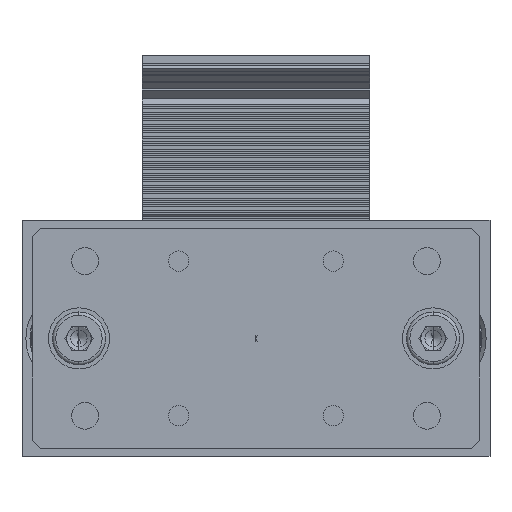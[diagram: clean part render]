
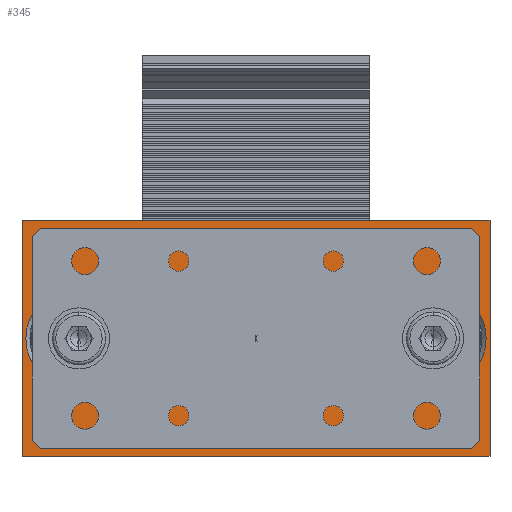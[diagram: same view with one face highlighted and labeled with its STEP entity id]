
A CAD part, left-side view. The second image highlights one B-rep face of the part: STEP entity #345.
In plain terms, the highlighted planar face has unit normal (-1, 0, 0).
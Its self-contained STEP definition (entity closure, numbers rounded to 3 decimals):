
#143 = VERTEX_POINT ( 'NONE', #7070 ) ;
#345 = ADVANCED_FACE ( 'NONE', ( #51921, #18441, #45289, #64658 ), #5693, .F. ) ;
#366 = ORIENTED_EDGE ( 'NONE', *, *, #29610, .T. ) ;
#954 = DIRECTION ( 'NONE',  ( 0., -1., 0. ) ) ;
#1813 = DIRECTION ( 'NONE',  ( 1., 0., 0. ) ) ;
#2065 = DIRECTION ( 'NONE',  ( 1., 0., 0. ) ) ;
#2452 = ORIENTED_EDGE ( 'NONE', *, *, #63169, .T. ) ;
#3247 = VERTEX_POINT ( 'NONE', #33697 ) ;
#3380 = CARTESIAN_POINT ( 'NONE',  ( -70., 57.5, 29. ) ) ;
#5693 = PLANE ( 'NONE',  #48699 ) ;
#7070 = CARTESIAN_POINT ( 'NONE',  ( -70., -43.5, 13.05 ) ) ;
#7379 = CIRCLE ( 'NONE', #66378, 3.5 ) ;
#8082 = CARTESIAN_POINT ( 'NONE',  ( -70., -57.5, 29. ) ) ;
#8766 = ORIENTED_EDGE ( 'NONE', *, *, #63782, .F. ) ;
#9523 = DIRECTION ( 'NONE',  ( 0., 0., -1. ) ) ;
#10970 = AXIS2_PLACEMENT_3D ( 'NONE', #34790, #1813, #15018 ) ;
#11414 = DIRECTION ( 'NONE',  ( 0., 1., 0. ) ) ;
#11714 = DIRECTION ( 'NONE',  ( 0., -1., 0. ) ) ;
#11914 = CARTESIAN_POINT ( 'NONE',  ( -70., 43.5, 0. ) ) ;
#12908 = VECTOR ( 'NONE', #954, 1000. ) ;
#14118 = EDGE_LOOP ( 'NONE', ( #45352, #2452 ) ) ;
#14327 = AXIS2_PLACEMENT_3D ( 'NONE', #27251, #18954, #72623 ) ;
#15018 = DIRECTION ( 'NONE',  ( 0., 1., 0. ) ) ;
#15430 = EDGE_LOOP ( 'NONE', ( #42281, #33534 ) ) ;
#16346 = CARTESIAN_POINT ( 'NONE',  ( -70., 57.5, 29. ) ) ;
#18126 = DIRECTION ( 'NONE',  ( 1., 0., 0. ) ) ;
#18441 = FACE_BOUND ( 'NONE', #14118, .T. ) ;
#18560 = CARTESIAN_POINT ( 'NONE',  ( -70., -43.5, 0. ) ) ;
#18954 = DIRECTION ( 'NONE',  ( 1., 0., 0. ) ) ;
#18980 = VECTOR ( 'NONE', #49031, 1000. ) ;
#19961 = EDGE_CURVE ( 'NONE', #61579, #57289, #20564, .T. ) ;
#20564 = CIRCLE ( 'NONE', #45907, 13.05 ) ;
#21111 = EDGE_CURVE ( 'NONE', #61215, #43068, #23995, .T. ) ;
#21402 = CARTESIAN_POINT ( 'NONE',  ( -70., -43.5, 0. ) ) ;
#21478 = CARTESIAN_POINT ( 'NONE',  ( -70., -57.5, -29. ) ) ;
#23995 = LINE ( 'NONE', #3380, #27543 ) ;
#24854 = LINE ( 'NONE', #45141, #39857 ) ;
#25000 = DIRECTION ( 'NONE',  ( 1., 0., 0. ) ) ;
#26006 = ORIENTED_EDGE ( 'NONE', *, *, #21111, .T. ) ;
#27251 = CARTESIAN_POINT ( 'NONE',  ( -70., 0., 0. ) ) ;
#27543 = VECTOR ( 'NONE', #9523, 1000. ) ;
#28331 = EDGE_LOOP ( 'NONE', ( #31151, #8766, #51685, #26006 ) ) ;
#28599 = EDGE_CURVE ( 'NONE', #52777, #143, #78692, .T. ) ;
#28857 = DIRECTION ( 'NONE',  ( 0., 1., 0. ) ) ;
#29043 = EDGE_LOOP ( 'NONE', ( #366, #29657 ) ) ;
#29610 = EDGE_CURVE ( 'NONE', #143, #52777, #30979, .T. ) ;
#29657 = ORIENTED_EDGE ( 'NONE', *, *, #28599, .T. ) ;
#30158 = EDGE_CURVE ( 'NONE', #3247, #43293, #57931, .T. ) ;
#30979 = CIRCLE ( 'NONE', #84300, 13.05 ) ;
#31151 = ORIENTED_EDGE ( 'NONE', *, *, #58868, .T. ) ;
#33181 = VERTEX_POINT ( 'NONE', #71289 ) ;
#33534 = ORIENTED_EDGE ( 'NONE', *, *, #39397, .T. ) ;
#33697 = CARTESIAN_POINT ( 'NONE',  ( -70., 3.5, 0. ) ) ;
#34790 = CARTESIAN_POINT ( 'NONE',  ( -70., 43.5, 0. ) ) ;
#39397 = EDGE_CURVE ( 'NONE', #43293, #3247, #7379, .T. ) ;
#39857 = VECTOR ( 'NONE', #11714, 1000. ) ;
#42281 = ORIENTED_EDGE ( 'NONE', *, *, #30158, .T. ) ;
#43068 = VERTEX_POINT ( 'NONE', #80733 ) ;
#43293 = VERTEX_POINT ( 'NONE', #66625 ) ;
#44966 = DIRECTION ( 'NONE',  ( 0., 1., 0. ) ) ;
#45141 = CARTESIAN_POINT ( 'NONE',  ( -70., 57.5, 29. ) ) ;
#45248 = CARTESIAN_POINT ( 'NONE',  ( -70., 43.5, 13.05 ) ) ;
#45289 = FACE_BOUND ( 'NONE', #15430, .T. ) ;
#45352 = ORIENTED_EDGE ( 'NONE', *, *, #19961, .T. ) ;
#45907 = AXIS2_PLACEMENT_3D ( 'NONE', #11914, #65580, #58990 ) ;
#46248 = EDGE_CURVE ( 'NONE', #61215, #33181, #24854, .T. ) ;
#48699 = AXIS2_PLACEMENT_3D ( 'NONE', #86090, #25000, #11414 ) ;
#49031 = DIRECTION ( 'NONE',  ( 0., 0., -1. ) ) ;
#49589 = DIRECTION ( 'NONE',  ( 0., 1., 0. ) ) ;
#51685 = ORIENTED_EDGE ( 'NONE', *, *, #46248, .F. ) ;
#51921 = FACE_BOUND ( 'NONE', #29043, .T. ) ;
#52777 = VERTEX_POINT ( 'NONE', #77662 ) ;
#55945 = CARTESIAN_POINT ( 'NONE',  ( -70., 57.5, -29. ) ) ;
#56650 = DIRECTION ( 'NONE',  ( 1., 0., 0. ) ) ;
#57289 = VERTEX_POINT ( 'NONE', #82971 ) ;
#57931 = CIRCLE ( 'NONE', #14327, 3.5 ) ;
#58868 = EDGE_CURVE ( 'NONE', #43068, #84537, #75694, .T. ) ;
#58990 = DIRECTION ( 'NONE',  ( 0., 1., 0. ) ) ;
#61215 = VERTEX_POINT ( 'NONE', #16346 ) ;
#61579 = VERTEX_POINT ( 'NONE', #45248 ) ;
#61955 = CARTESIAN_POINT ( 'NONE',  ( -70., 0., 0. ) ) ;
#63169 = EDGE_CURVE ( 'NONE', #57289, #61579, #72757, .T. ) ;
#63782 = EDGE_CURVE ( 'NONE', #33181, #84537, #81077, .T. ) ;
#64658 = FACE_OUTER_BOUND ( 'NONE', #28331, .T. ) ;
#65580 = DIRECTION ( 'NONE',  ( 1., 0., 0. ) ) ;
#66378 = AXIS2_PLACEMENT_3D ( 'NONE', #61955, #56650, #49589 ) ;
#66625 = CARTESIAN_POINT ( 'NONE',  ( -70., -3.5, 0. ) ) ;
#71289 = CARTESIAN_POINT ( 'NONE',  ( -70., -57.5, 29. ) ) ;
#72623 = DIRECTION ( 'NONE',  ( 0., 1., 0. ) ) ;
#72757 = CIRCLE ( 'NONE', #10970, 13.05 ) ;
#75694 = LINE ( 'NONE', #55945, #12908 ) ;
#77662 = CARTESIAN_POINT ( 'NONE',  ( -70., -43.5, -13.05 ) ) ;
#78692 = CIRCLE ( 'NONE', #85688, 13.05 ) ;
#80733 = CARTESIAN_POINT ( 'NONE',  ( -70., 57.5, -29. ) ) ;
#81077 = LINE ( 'NONE', #8082, #18980 ) ;
#82971 = CARTESIAN_POINT ( 'NONE',  ( -70., 43.5, -13.05 ) ) ;
#84300 = AXIS2_PLACEMENT_3D ( 'NONE', #21402, #2065, #28857 ) ;
#84537 = VERTEX_POINT ( 'NONE', #21478 ) ;
#85688 = AXIS2_PLACEMENT_3D ( 'NONE', #18560, #18126, #44966 ) ;
#86090 = CARTESIAN_POINT ( 'NONE',  ( -70., 57.5, 29. ) ) ;
